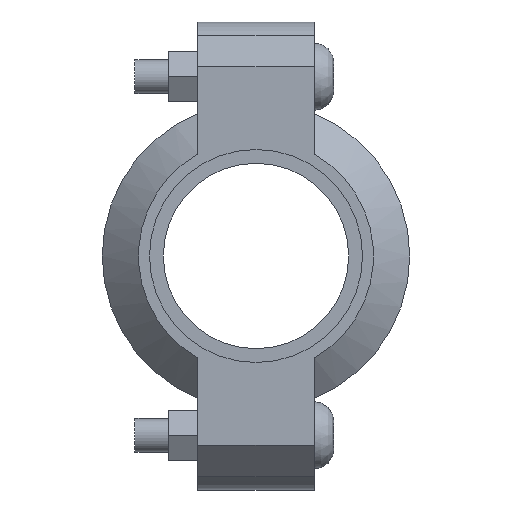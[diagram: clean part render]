
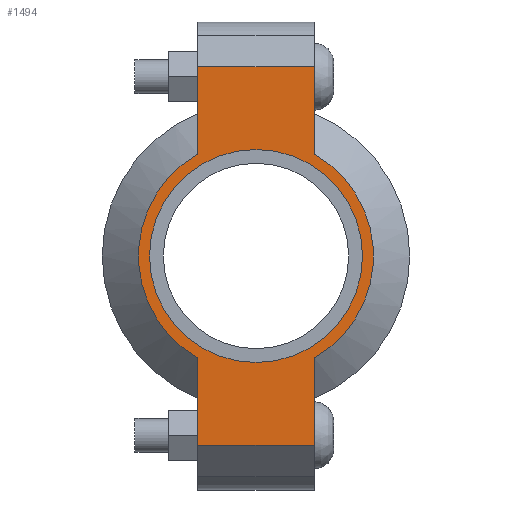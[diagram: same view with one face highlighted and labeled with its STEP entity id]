
A CAD part, left-side view. The second image highlights one B-rep face of the part: STEP entity #1494.
In plain terms, the highlighted planar face has unit normal (-1, 0, 0) as drawn and (0, 0, 1) by its records, which use the part's own axes.
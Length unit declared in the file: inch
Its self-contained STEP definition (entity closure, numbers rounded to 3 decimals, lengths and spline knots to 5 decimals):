
#118=LINE('',#2607,#211);
#126=LINE('',#2643,#219);
#133=LINE('',#2664,#226);
#142=LINE('',#2696,#235);
#143=LINE('',#2700,#236);
#144=LINE('',#2702,#237);
#211=VECTOR('',#2135,0.3937);
#219=VECTOR('',#2151,0.3937);
#226=VECTOR('',#2170,0.3937);
#235=VECTOR('',#2195,0.3937);
#236=VECTOR('',#2200,0.3937);
#237=VECTOR('',#2201,0.3937);
#293=FACE_BOUND('',#471,.T.);
#365=FACE_OUTER_BOUND('',#470,.T.);
#470=EDGE_LOOP('',(#1235,#1236,#1237,#1238,#1239,#1240,#1241,#1242));
#471=EDGE_LOOP('',(#1243));
#543=CIRCLE('',#1713,1.1875);
#569=CIRCLE('',#1772,1.31);
#570=CIRCLE('',#1773,1.31);
#635=VERTEX_POINT('',#2423);
#678=VERTEX_POINT('',#2604);
#679=VERTEX_POINT('',#2606);
#690=VERTEX_POINT('',#2638);
#691=VERTEX_POINT('',#2642);
#698=VERTEX_POINT('',#2661);
#699=VERTEX_POINT('',#2663);
#709=VERTEX_POINT('',#2699);
#710=VERTEX_POINT('',#2701);
#791=EDGE_CURVE('',#635,#635,#543,.T.);
#852=EDGE_CURVE('',#679,#678,#118,.T.);
#866=EDGE_CURVE('',#691,#690,#126,.T.);
#876=EDGE_CURVE('',#699,#698,#133,.T.);
#891=EDGE_CURVE('',#691,#678,#142,.T.);
#892=EDGE_CURVE('',#690,#699,#569,.T.);
#893=EDGE_CURVE('',#709,#698,#143,.T.);
#894=EDGE_CURVE('',#709,#710,#144,.T.);
#895=EDGE_CURVE('',#710,#679,#570,.T.);
#1235=ORIENTED_EDGE('',*,*,#891,.F.);
#1236=ORIENTED_EDGE('',*,*,#866,.T.);
#1237=ORIENTED_EDGE('',*,*,#892,.T.);
#1238=ORIENTED_EDGE('',*,*,#876,.T.);
#1239=ORIENTED_EDGE('',*,*,#893,.F.);
#1240=ORIENTED_EDGE('',*,*,#894,.T.);
#1241=ORIENTED_EDGE('',*,*,#895,.T.);
#1242=ORIENTED_EDGE('',*,*,#852,.T.);
#1243=ORIENTED_EDGE('',*,*,#791,.T.);
#1336=PLANE('',#1771);
#1494=ADVANCED_FACE('',(#365,#293),#1336,.T.);
#1713=AXIS2_PLACEMENT_3D('',#2425,#2011,#2012);
#1771=AXIS2_PLACEMENT_3D('',#2697,#2196,#2197);
#1772=AXIS2_PLACEMENT_3D('',#2698,#2198,#2199);
#1773=AXIS2_PLACEMENT_3D('',#2703,#2202,#2203);
#2011=DIRECTION('center_axis',(0.,0.,-1.));
#2012=DIRECTION('ref_axis',(-1.,0.,0.));
#2135=DIRECTION('',(-1.,0.,0.));
#2151=DIRECTION('',(1.,0.,0.));
#2170=DIRECTION('',(1.,0.,0.));
#2195=DIRECTION('',(0.,1.,0.));
#2196=DIRECTION('center_axis',(0.,0.,1.));
#2197=DIRECTION('ref_axis',(1.,0.,0.));
#2198=DIRECTION('center_axis',(0.,0.,1.));
#2199=DIRECTION('ref_axis',(-1.,0.,0.));
#2200=DIRECTION('',(0.,-1.,0.));
#2201=DIRECTION('',(-1.,0.,0.));
#2202=DIRECTION('center_axis',(0.,0.,1.));
#2203=DIRECTION('ref_axis',(-1.,0.,0.));
#2423=CARTESIAN_POINT('',(1.1875,0.,0.94));
#2425=CARTESIAN_POINT('Origin',(0.,0.,0.94));
#2604=CARTESIAN_POINT('',(-2.11,0.65,0.94));
#2606=CARTESIAN_POINT('',(-1.13737,0.65,0.94));
#2607=CARTESIAN_POINT('',(-2.61,0.65,0.94));
#2638=CARTESIAN_POINT('',(-1.13737,-0.65,0.94));
#2642=CARTESIAN_POINT('',(-2.11,-0.65,0.94));
#2643=CARTESIAN_POINT('',(2.61,-0.65,0.94));
#2661=CARTESIAN_POINT('',(2.11,-0.65,0.94));
#2663=CARTESIAN_POINT('',(1.13737,-0.65,0.94));
#2664=CARTESIAN_POINT('',(2.61,-0.65,0.94));
#2696=CARTESIAN_POINT('',(-2.11,0.325,0.94));
#2697=CARTESIAN_POINT('Origin',(0.,0.,0.94));
#2698=CARTESIAN_POINT('Origin',(0.,0.,0.94));
#2699=CARTESIAN_POINT('',(2.11,0.65,0.94));
#2700=CARTESIAN_POINT('',(2.11,-0.325,0.94));
#2701=CARTESIAN_POINT('',(1.13737,0.65,0.94));
#2702=CARTESIAN_POINT('',(-2.61,0.65,0.94));
#2703=CARTESIAN_POINT('Origin',(0.,0.,0.94));
